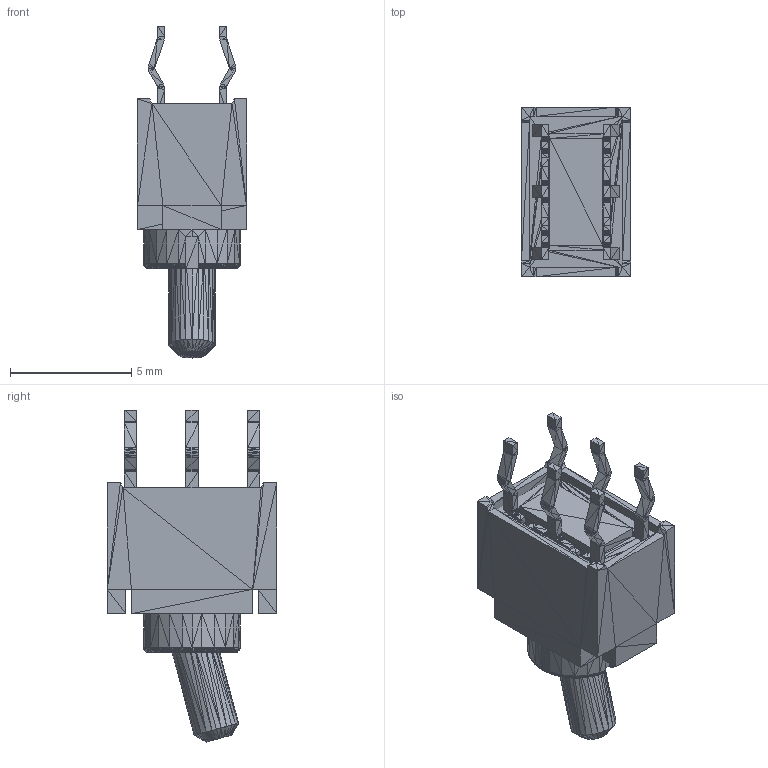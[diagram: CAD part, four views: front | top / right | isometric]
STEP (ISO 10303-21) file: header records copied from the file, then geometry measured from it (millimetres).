
FILE_DESCRIPTION(/* description */ (''),/* implementation_level */ '2;1');
FILE_NAME(/* name */ 'FT2D.stp',/* time_stamp */ '2021-8-24T10:55:54.8699816',/* author */ ('knitter-switch'),/* organization */ (''),/* preprocessor_version */ 'InStep v2',/* originating_system */ 'InStep V2.3',/* authorisation */ '');
FILE_SCHEMA (('AUTOMOTIVE_DESIGN { 1 0 10303 214 1 1 1 1 }'));
Length unit declared in the file: centimetre
Products named in the file (1): None
Bounding box: 4.5 x 7 x 13.7 mm (x, y, z)
Surface area: 735.1 mm2
Topology: 5 solids, 39 shells, 27845 faces, 43482 edges, 15318 vertices
Faces by surface type: plane 27845
Entity records: 447544 total; most frequent: ORIENTED_EDGE 86964, DIRECTION 65677, LINE 43482, EDGE_CURVE 43482, VECTOR 37830, AXIS2_PLACEMENT_3D 27846, EDGE_LOOP 27845, FACE_OUTER_BOUND 27845
